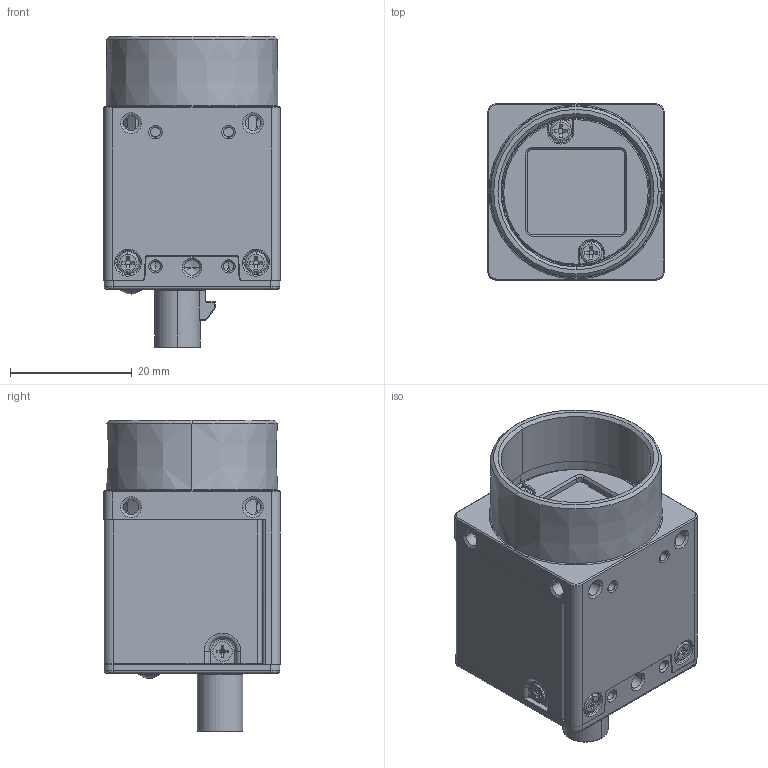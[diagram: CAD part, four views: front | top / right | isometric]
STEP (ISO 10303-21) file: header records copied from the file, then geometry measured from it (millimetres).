
FILE_DESCRIPTION((''),'2;1');
FILE_NAME('DH9-RDI000986-0000-LJ','2026-04-10T11:48:18',('401332'),(''),'CREO PARAMETRIC BY PTC INC, 2020184','CREO PARAMETRIC BY PTC INC, 2020184','');
FILE_SCHEMA(('CONFIG_CONTROL_DESIGN','SHAPE_APPEARANCE_LAYERS_GROUPS'));
Products named in the file (1): DH9-RDI000986-0000-LJ
Bounding box: 29 x 29 x 51.1 mm (x, y, z)
Volume: 8879 mm3; surface area: 14461.4 mm2
Topology: 1 solids, 7 shells, 1553 faces, 4170 edges, 2633 vertices
Faces by surface type: plane 776, cylinder 396, cone 178, torus 125, bspline 72, sphere 6
Entity records: 76606 total; most frequent: CARTESIAN_POINT 14169, ORIENTED_EDGE 8300, DIRECTION 7875, PRESENTATION_STYLE_ASSIGNMENT 5699, STYLED_ITEM 4151, CURVE_STYLE 4150, EDGE_CURVE 4150, AXIS2_PLACEMENT_3D 2750
